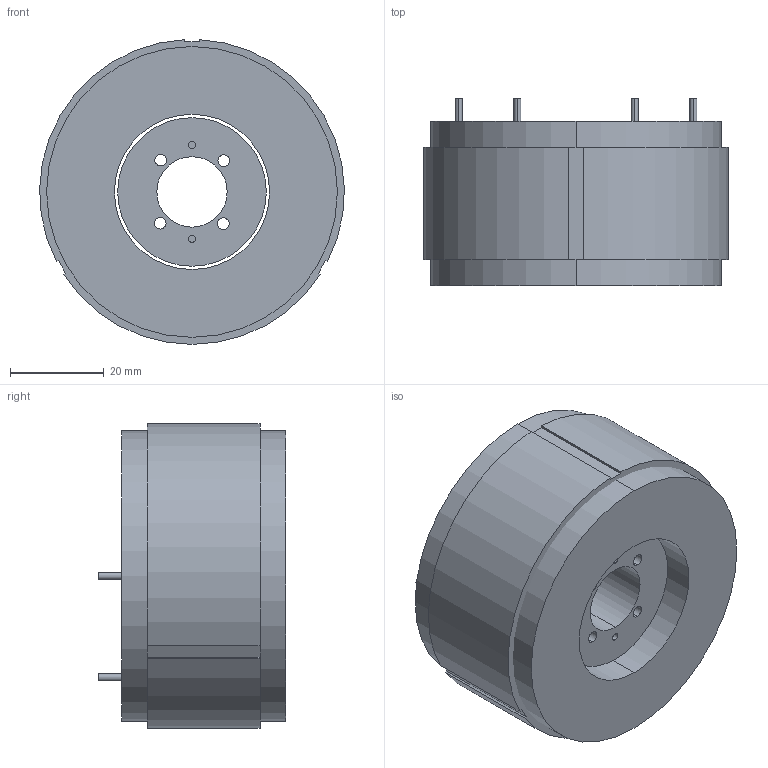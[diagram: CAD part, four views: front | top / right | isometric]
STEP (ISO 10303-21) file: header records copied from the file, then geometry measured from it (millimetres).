
FILE_DESCRIPTION (( 'STEP AP203' ), '1' );
FILE_NAME ('TMXSL65-34 KIT 3D.STEP', '2021-06-18T06:29:42', ( '' ), ( '' ), 'SwSTEP 2.0', 'SolidWorks 2021', '' );
FILE_SCHEMA (( 'CONFIG_CONTROL_DESIGN' ));
Length unit declared in the file: millimetre
Products named in the file (1): TMXSL65-34 KIT 3D
Bounding box: 64.98 x 40 x 64.96 mm (x, y, z)
Volume: 104435.5 mm3; surface area: 31239.2 mm2
Topology: 3 solids, 3 shells, 105 faces, 273 edges, 182 vertices
Faces by surface type: cylinder 70, plane 35
Entity records: 3388 total; most frequent: DIRECTION 625, CARTESIAN_POINT 561, ORIENTED_EDGE 546, EDGE_CURVE 273, AXIS2_PLACEMENT_3D 246, VERTEX_POINT 182, CIRCLE 140, LINE 133
